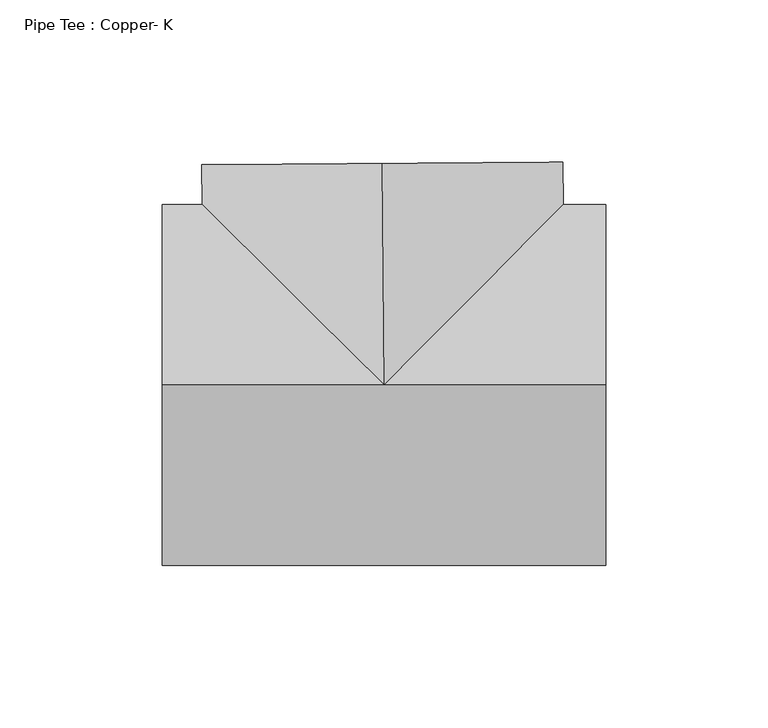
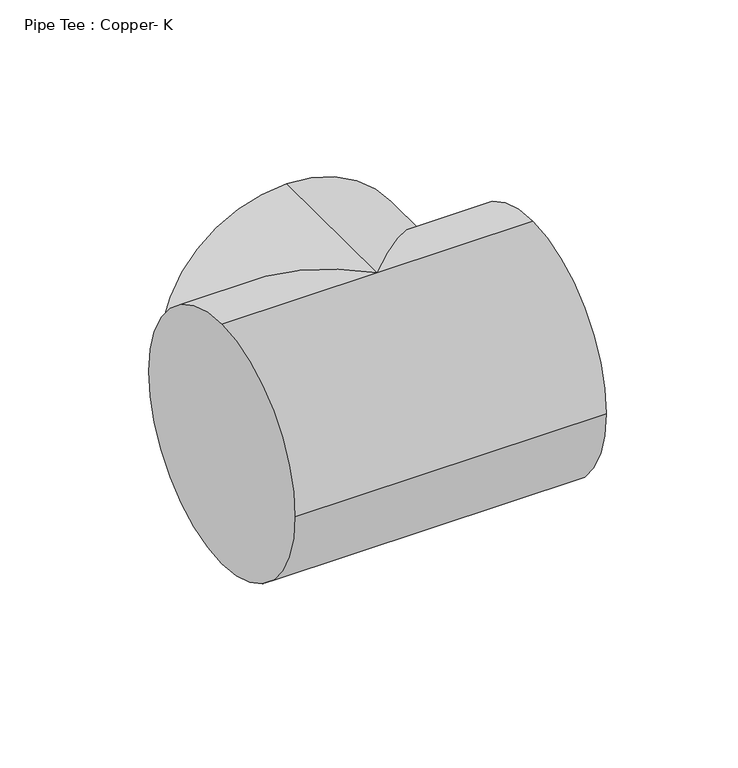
"""IFC4 building model written with IfcOpenShell, lengths in millimetres: pipe fitting geometry, Pipe Tee : Copper- K."""

from ifc_helpers import new_model, si_unit, frame, origin, place, context, project, spatial, circle_curve, ellipse_curve, source, transform, mapped, element, save
from ifc_brep_helpers import plane_surface, cylinder_surface, advanced_brep


def pipe_tee_copper_k_4c414169(model_context):
    return source(origin(), model_context, "Body", "AdvancedBrep", [
        advanced_brep(
        [(-68.2625, 0.0, 55.5625), (-68.2625, 55.5625, 0.0), (-68.2625, 0.0, -55.5625), (-68.2625, -55.5625, 0.0), (68.2625, 0.0, 55.5625), (68.2625, -55.5625, 0.0), (68.2625, 0.0, -55.5625), (68.2625, 55.5625, 0.0), (0.0, 0.0, 55.5625), (0.0, 0.0, -55.5625), (55.1629803, 55.5625, 0.0), (-55.9649133, 55.5625, 0.0), (-0.4926031, 68.2607226, 55.5625), (55.0684501, 68.6616786, 0.0), (-0.4926031, 68.2607226, -55.5625), (-56.0536564, 67.8597665, 0.0)],
        [
            (0, 1, circle_curve(frame((-68.2625, 0.0, 0.0), z_axis=(-1.0, 0.0, 0.0), x_axis=(0.0, -1.0, 0.0)), 55.5625)),
            (1, 2, circle_curve(frame((-68.2625, 0.0, 0.0), z_axis=(-1.0, 0.0, 0.0), x_axis=(0.0, -1.0, 0.0)), 55.5625)),
            (2, 3, circle_curve(frame((-68.2625, 0.0, 0.0), z_axis=(-1.0, 0.0, 0.0), x_axis=(0.0, -1.0, 0.0)), 55.5625)),
            (3, 0, circle_curve(frame((-68.2625, 0.0, 0.0), z_axis=(-1.0, 0.0, 0.0), x_axis=(0.0, -1.0, 0.0)), 55.5625)),
            (4, 5, circle_curve(frame((68.2625, 0.0, 0.0), z_axis=(1.0, 0.0, 0.0), x_axis=(0.0, -1.0, 0.0)), 55.5625)),
            (5, 6, circle_curve(frame((68.2625, 0.0, 0.0), z_axis=(1.0, 0.0, 0.0), x_axis=(0.0, -1.0, 0.0)), 55.5625)),
            (6, 7, circle_curve(frame((68.2625, 0.0, 0.0), z_axis=(1.0, 0.0, 0.0), x_axis=(0.0, -1.0, 0.0)), 55.5625)),
            (7, 4, circle_curve(frame((68.2625, 0.0, 0.0), z_axis=(1.0, 0.0, 0.0), x_axis=(0.0, -1.0, 0.0)), 55.5625)),
            (3, 5),
            (4, 8),
            (8, 0),
            (2, 9),
            (9, 6),
            (9, 10, ellipse_curve(frame((0.0, 0.0, 0.0), z_axis=(0.7096535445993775, -0.70455081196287, 0.0), x_axis=(-0.7045508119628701, -0.7096535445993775, 0.0)), 78.2952476, 55.5625)),
            (10, 7),
            (1, 11),
            (11, 9, ellipse_curve(frame((0.0, 0.0, 0.0), z_axis=(-0.70455081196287, -0.7096535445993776, 0.0), x_axis=(-0.7096535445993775, 0.70455081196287, 0.0)), 78.8623036, 55.5625)),
            (8, 11, ellipse_curve(frame((0.0, 0.0, 0.0), z_axis=(-0.70455081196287, -0.7096535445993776, 0.0), x_axis=(-0.7096535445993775, 0.70455081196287, 0.0)), 78.8623036, 55.5625)),
            (10, 8, ellipse_curve(frame((0.0, 0.0, 0.0), z_axis=(0.7096535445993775, -0.70455081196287, 0.0), x_axis=(-0.7045508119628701, -0.7096535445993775, 0.0)), 78.2952476, 55.5625)),
            (12, 13, circle_curve(frame((-0.4926031, 68.2607226, 0.0), z_axis=(-0.007216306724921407, 0.9999739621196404, 0.0), x_axis=(0.9999739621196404, 0.007216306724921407, 0.0)), 55.5625)),
            (13, 14, circle_curve(frame((-0.4926031, 68.2607226, 0.0), z_axis=(-0.007216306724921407, 0.9999739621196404, 0.0), x_axis=(0.9999739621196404, 0.007216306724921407, 0.0)), 55.5625)),
            (14, 15, circle_curve(frame((-0.4926031, 68.2607226, 0.0), z_axis=(-0.007216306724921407, 0.9999739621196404, 0.0), x_axis=(0.9999739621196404, 0.007216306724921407, 0.0)), 55.5625)),
            (15, 12, circle_curve(frame((-0.4926031, 68.2607226, 0.0), z_axis=(-0.007216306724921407, 0.9999739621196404, 0.0), x_axis=(0.9999739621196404, 0.007216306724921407, 0.0)), 55.5625)),
            (12, 8),
            (10, 13),
            (9, 14),
            (11, 15),
        ],
        [
            plane_surface(frame((-68.2625, 0.0, 0.0), z_axis=(-1.0, 0.0, 0.0), x_axis=(0.0, 0.0, 1.0))),
            plane_surface(frame((68.2625, 0.0, 0.0), z_axis=(1.0, 0.0, 0.0), x_axis=(0.0, 0.0, 1.0))),
            cylinder_surface(frame((-68.2625, 0.0, 0.0), z_axis=(-1.0, 0.0, 0.0), x_axis=(0.0, -1.0, 0.0)), 55.5625),
            plane_surface(frame((-0.4926031, 68.2607226, 0.0), z_axis=(-0.007216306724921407, 0.9999739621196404, 0.0), x_axis=(0.0, 0.0, 1.0))),
            cylinder_surface(frame((0.0, 0.0, 0.0), z_axis=(0.007216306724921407, -0.9999739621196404, 0.0), x_axis=(0.9999739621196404, 0.007216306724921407, 0.0)), 55.5625),
        ],
        [
            (0, [[1, 2, 3, 4]]),
            (1, [[5, 6, 7, 8]]),
            (2, [[9, -5, 10, 11, -4]]),
            (2, [[12, 13, -6, -9, -3]]),
            (2, [[-13, 14, 15, -7]]),
            (2, [[16, 17, -12, -2]]),
            (2, [[-11, 18, -16, -1]]),
            (2, [[-15, 19, -10, -8]]),
            (3, [[20, 21, 22, 23]]),
            (4, [[24, -19, 25, -20]]),
            (4, [[-25, -14, 26, -21]]),
            (4, [[-26, -17, 27, -22]]),
            (4, [[-27, -18, -24, -23]]),
        ],
    ),
        advanced_brep(
        [(-68.2625, 0.0, 55.5625), (-68.2625, 55.5625, 0.0), (-68.2625, 0.0, -55.5625), (-68.2625, -55.5625, 0.0), (68.2625, 0.0, 55.5625), (68.2625, -55.5625, 0.0), (68.2625, 0.0, -55.5625), (68.2625, 55.5625, 0.0), (0.0, 0.0, 55.5625), (0.0, 0.0, -55.5625), (55.1629803, 55.5625, 0.0), (-55.9649133, 55.5625, 0.0), (-0.4926031, 68.2607226, 55.5625), (55.0684501, 68.6616786, 0.0), (-0.4926031, 68.2607226, -55.5625), (-56.0536564, 67.8597665, 0.0)],
        [
            (0, 1, circle_curve(frame((-68.2625, 0.0, 0.0), z_axis=(-1.0, 0.0, 0.0), x_axis=(0.0, -1.0, 0.0)), 55.5625)),
            (1, 2, circle_curve(frame((-68.2625, 0.0, 0.0), z_axis=(-1.0, 0.0, 0.0), x_axis=(0.0, -1.0, 0.0)), 55.5625)),
            (2, 3, circle_curve(frame((-68.2625, 0.0, 0.0), z_axis=(-1.0, 0.0, 0.0), x_axis=(0.0, -1.0, 0.0)), 55.5625)),
            (3, 0, circle_curve(frame((-68.2625, 0.0, 0.0), z_axis=(-1.0, 0.0, 0.0), x_axis=(0.0, -1.0, 0.0)), 55.5625)),
            (4, 5, circle_curve(frame((68.2625, 0.0, 0.0), z_axis=(1.0, 0.0, 0.0), x_axis=(0.0, -1.0, 0.0)), 55.5625)),
            (5, 6, circle_curve(frame((68.2625, 0.0, 0.0), z_axis=(1.0, 0.0, 0.0), x_axis=(0.0, -1.0, 0.0)), 55.5625)),
            (6, 7, circle_curve(frame((68.2625, 0.0, 0.0), z_axis=(1.0, 0.0, 0.0), x_axis=(0.0, -1.0, 0.0)), 55.5625)),
            (7, 4, circle_curve(frame((68.2625, 0.0, 0.0), z_axis=(1.0, 0.0, 0.0), x_axis=(0.0, -1.0, 0.0)), 55.5625)),
            (3, 5),
            (4, 8),
            (8, 0),
            (2, 9),
            (9, 6),
            (9, 10, ellipse_curve(frame((0.0, 0.0, 0.0), z_axis=(0.7096535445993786, -0.7045508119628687, 0.0), x_axis=(-0.7045508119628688, -0.7096535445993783, 0.0)), 78.2952476, 55.5625)),
            (10, 7),
            (1, 11),
            (11, 9, ellipse_curve(frame((0.0, 0.0, 0.0), z_axis=(-0.7045508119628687, -0.7096535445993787, 0.0), x_axis=(-0.7096535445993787, 0.7045508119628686, 0.0)), 78.8623036, 55.5625)),
            (8, 11, ellipse_curve(frame((0.0, 0.0, 0.0), z_axis=(-0.7045508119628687, -0.7096535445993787, 0.0), x_axis=(-0.7096535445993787, 0.7045508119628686, 0.0)), 78.8623036, 55.5625)),
            (10, 8, ellipse_curve(frame((0.0, 0.0, 0.0), z_axis=(0.7096535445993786, -0.7045508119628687, 0.0), x_axis=(-0.7045508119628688, -0.7096535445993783, 0.0)), 78.2952476, 55.5625)),
            (12, 13, circle_curve(frame((-0.4926031, 68.2607226, 0.0), z_axis=(-0.007216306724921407, 0.9999739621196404, 0.0), x_axis=(0.9999739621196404, 0.007216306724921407, 0.0)), 55.5625)),
            (13, 14, circle_curve(frame((-0.4926031, 68.2607226, 0.0), z_axis=(-0.007216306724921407, 0.9999739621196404, 0.0), x_axis=(0.9999739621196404, 0.007216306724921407, 0.0)), 55.5625)),
            (14, 15, circle_curve(frame((-0.4926031, 68.2607226, 0.0), z_axis=(-0.007216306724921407, 0.9999739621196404, 0.0), x_axis=(0.9999739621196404, 0.007216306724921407, 0.0)), 55.5625)),
            (15, 12, circle_curve(frame((-0.4926031, 68.2607226, 0.0), z_axis=(-0.007216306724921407, 0.9999739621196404, 0.0), x_axis=(0.9999739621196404, 0.007216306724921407, 0.0)), 55.5625)),
            (12, 8),
            (10, 13),
            (9, 14),
            (11, 15),
        ],
        [
            plane_surface(frame((-68.2625, 0.0, 0.0), z_axis=(-1.0, 0.0, 0.0), x_axis=(0.0, 0.0, 1.0))),
            plane_surface(frame((68.2625, 0.0, 0.0), z_axis=(1.0, 0.0, 0.0), x_axis=(0.0, 0.0, 1.0))),
            cylinder_surface(frame((-68.2625, 0.0, 0.0), z_axis=(-1.0, 0.0, 0.0), x_axis=(0.0, -1.0, 0.0)), 55.5625),
            plane_surface(frame((-0.4926031, 68.2607226, 0.0), z_axis=(-0.007216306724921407, 0.9999739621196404, 0.0), x_axis=(0.0, 0.0, 1.0))),
            cylinder_surface(frame((0.0, 0.0, 0.0), z_axis=(0.007216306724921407, -0.9999739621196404, 0.0), x_axis=(0.9999739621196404, 0.007216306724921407, 0.0)), 55.5625),
        ],
        [
            (0, [[1, 2, 3, 4]]),
            (1, [[5, 6, 7, 8]]),
            (2, [[9, -5, 10, 11, -4]]),
            (2, [[12, 13, -6, -9, -3]]),
            (2, [[-13, 14, 15, -7]]),
            (2, [[16, 17, -12, -2]]),
            (2, [[-11, 18, -16, -1]]),
            (2, [[-15, 19, -10, -8]]),
            (3, [[20, 21, 22, 23]]),
            (4, [[24, -19, 25, -20]]),
            (4, [[-25, -14, 26, -21]]),
            (4, [[-26, -17, 27, -22]]),
            (4, [[-27, -18, -24, -23]]),
        ],
    ),
    ])


if __name__ == "__main__":
    model = new_model("IFC4")
    model_context = context("Model", 3, world=origin())
    ifc_project = project(units=[si_unit("LENGTHUNIT", "METRE", prefix="MILLI")], contexts=[model_context])
    site = spatial("IfcSite", under=ifc_project)
    building = spatial("IfcBuilding", under=site)
    placement = place(None, origin())
    pipe_tee_copper_k_shape = pipe_tee_copper_k_4c414169(model_context)
    element("IfcPipeFitting", 1, ObjectType="Pipe Tee : Copper- K", at=placement, inside=building, context=model_context, shape_type="MappedRepresentation", body=[
        mapped(pipe_tee_copper_k_shape, transform((0.0, 0.0, 0.0), x_axis=(1.0, 0.0, 0.0), y_axis=(0.0, 1.0, 0.0), z_axis=(0.0, 0.0, 1.0))),
    ])
    save(model, "model.ifc")
